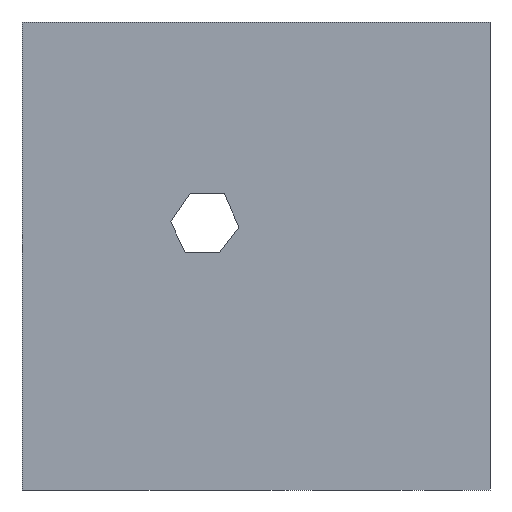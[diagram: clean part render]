
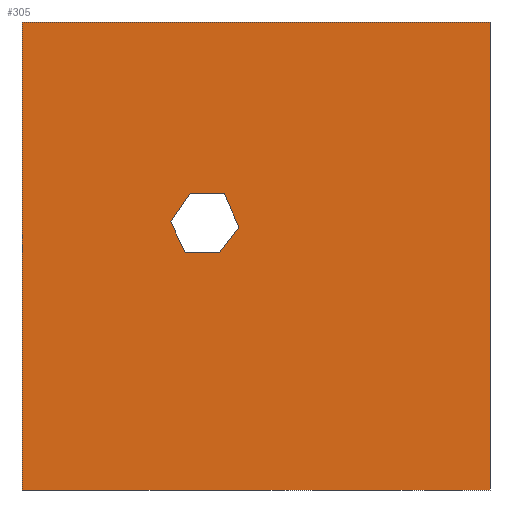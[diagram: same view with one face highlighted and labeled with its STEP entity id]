
A CAD part, left-side view. The second image highlights one B-rep face of the part: STEP entity #305.
In plain terms, the highlighted planar face has unit normal (-1, 0, 0).
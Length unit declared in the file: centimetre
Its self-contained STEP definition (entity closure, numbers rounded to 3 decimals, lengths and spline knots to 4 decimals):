
#2 = ORIENTED_EDGE ( 'NONE', *, *, #195, .T. ) ;
#11 = VECTOR ( 'NONE', #272, 100. ) ;
#35 = CARTESIAN_POINT ( 'NONE',  ( 0., 0., 1000. ) ) ;
#48 = DIRECTION ( 'NONE',  ( 0., 0., -1. ) ) ;
#70 = VECTOR ( 'NONE', #48, 100. ) ;
#76 = CARTESIAN_POINT ( 'NONE',  ( 0., 651.2079, 507.2544 ) ) ;
#82 = DIRECTION ( 'NONE',  ( 0., -0.396, -0.918 ) ) ;
#139 = VECTOR ( 'NONE', #1546, 100. ) ;
#161 = VERTEX_POINT ( 'NONE', #268 ) ;
#163 = DIRECTION ( 'NONE',  ( 0., 0., -1. ) ) ;
#164 = VERTEX_POINT ( 'NONE', #1219 ) ;
#169 = EDGE_CURVE ( 'NONE', #1566, #1106, #1355, .T. ) ;
#171 = VECTOR ( 'NONE', #1008, 100. ) ;
#179 = CARTESIAN_POINT ( 'NONE',  ( 0., 536.5707, 561.2604 ) ) ;
#195 = EDGE_CURVE ( 'NONE', #632, #723, #726, .T. ) ;
#196 = CARTESIAN_POINT ( 'NONE',  ( 0., 1000., 0. ) ) ;
#256 = EDGE_CURVE ( 'NONE', #161, #1450, #1276, .T. ) ;
#268 = CARTESIAN_POINT ( 'NONE',  ( 0., 682.3883, 573.4402 ) ) ;
#272 = DIRECTION ( 'NONE',  ( 0., -1., 0. ) ) ;
#290 = VERTEX_POINT ( 'NONE', #1147 ) ;
#305 = ADVANCED_FACE ( 'NONE', ( #413, #761 ), #1501, .F. ) ;
#355 = CARTESIAN_POINT ( 'NONE',  ( 0., 0., 0. ) ) ;
#362 = ORIENTED_EDGE ( 'NONE', *, *, #169, .T. ) ;
#387 = VECTOR ( 'NONE', #163, 100. ) ;
#393 = CARTESIAN_POINT ( 'NONE',  ( 0., 640.6599, 633.5361 ) ) ;
#405 = DIRECTION ( 'NONE',  ( 1., 0., 0. ) ) ;
#413 = FACE_BOUND ( 'NONE', #1211, .T. ) ;
#437 = ORIENTED_EDGE ( 'NONE', *, *, #1148, .T. ) ;
#499 = DIRECTION ( 'NONE',  ( 0., 1., 0. ) ) ;
#507 = CARTESIAN_POINT ( 'NONE',  ( 0., 1000., 0. ) ) ;
#519 = LINE ( 'NONE', #622, #171 ) ;
#543 = VECTOR ( 'NONE', #1468, 100. ) ;
#557 = ORIENTED_EDGE ( 'NONE', *, *, #1567, .T. ) ;
#571 = CARTESIAN_POINT ( 'NONE',  ( 0., 640.6599, 633.5361 ) ) ;
#622 = CARTESIAN_POINT ( 'NONE',  ( 0., 651.2079, 507.2544 ) ) ;
#632 = VERTEX_POINT ( 'NONE', #1324 ) ;
#635 = LINE ( 'NONE', #867, #11 ) ;
#667 = CARTESIAN_POINT ( 'NONE',  ( 0., 1000., 1000. ) ) ;
#713 = LINE ( 'NONE', #571, #139 ) ;
#716 = CARTESIAN_POINT ( 'NONE',  ( 0., 578.2991, 507.2544 ) ) ;
#723 = VERTEX_POINT ( 'NONE', #196 ) ;
#726 = LINE ( 'NONE', #974, #70 ) ;
#731 = VECTOR ( 'NONE', #1037, 100. ) ;
#761 = FACE_OUTER_BOUND ( 'NONE', #1090, .T. ) ;
#791 = LINE ( 'NONE', #179, #731 ) ;
#838 = ORIENTED_EDGE ( 'NONE', *, *, #1457, .F. ) ;
#849 = ORIENTED_EDGE ( 'NONE', *, *, #1445, .F. ) ;
#853 = ORIENTED_EDGE ( 'NONE', *, *, #1149, .T. ) ;
#867 = CARTESIAN_POINT ( 'NONE',  ( 0., 1000., 1000. ) ) ;
#875 = CARTESIAN_POINT ( 'NONE',  ( 0., 567.7511, 633.5361 ) ) ;
#887 = CARTESIAN_POINT ( 'NONE',  ( 0., 682.3883, 573.4402 ) ) ;
#890 = VECTOR ( 'NONE', #1281, 100. ) ;
#917 = VECTOR ( 'NONE', #499, 100. ) ;
#974 = CARTESIAN_POINT ( 'NONE',  ( 0., 1000., 1000. ) ) ;
#1008 = DIRECTION ( 'NONE',  ( 0., 0.426, 0.905 ) ) ;
#1030 = ORIENTED_EDGE ( 'NONE', *, *, #1519, .T. ) ;
#1037 = DIRECTION ( 'NONE',  ( 0., 0.611, -0.791 ) ) ;
#1043 = AXIS2_PLACEMENT_3D ( 'NONE', #667, #405, #1258 ) ;
#1090 = EDGE_LOOP ( 'NONE', ( #557, #849, #838, #2 ) ) ;
#1106 = VERTEX_POINT ( 'NONE', #76 ) ;
#1137 = LINE ( 'NONE', #1416, #1195 ) ;
#1147 = CARTESIAN_POINT ( 'NONE',  ( 0., 0., 1000. ) ) ;
#1148 = EDGE_CURVE ( 'NONE', #1431, #164, #1137, .T. ) ;
#1149 = EDGE_CURVE ( 'NONE', #164, #1566, #791, .T. ) ;
#1195 = VECTOR ( 'NONE', #82, 100. ) ;
#1211 = EDGE_LOOP ( 'NONE', ( #853, #362, #1030, #1278, #1216, #437 ) ) ;
#1216 = ORIENTED_EDGE ( 'NONE', *, *, #1336, .T. ) ;
#1219 = CARTESIAN_POINT ( 'NONE',  ( 0., 536.5707, 561.2604 ) ) ;
#1226 = LINE ( 'NONE', #35, #387 ) ;
#1241 = LINE ( 'NONE', #507, #543 ) ;
#1258 = DIRECTION ( 'NONE',  ( 0., 0., -1. ) ) ;
#1276 = LINE ( 'NONE', #887, #890 ) ;
#1278 = ORIENTED_EDGE ( 'NONE', *, *, #256, .T. ) ;
#1281 = DIRECTION ( 'NONE',  ( 0., -0.57, 0.821 ) ) ;
#1320 = VERTEX_POINT ( 'NONE', #355 ) ;
#1324 = CARTESIAN_POINT ( 'NONE',  ( 0., 1000., 1000. ) ) ;
#1336 = EDGE_CURVE ( 'NONE', #1450, #1431, #713, .T. ) ;
#1355 = LINE ( 'NONE', #716, #917 ) ;
#1416 = CARTESIAN_POINT ( 'NONE',  ( 0., 567.7511, 633.5361 ) ) ;
#1431 = VERTEX_POINT ( 'NONE', #875 ) ;
#1445 = EDGE_CURVE ( 'NONE', #290, #1320, #1226, .T. ) ;
#1450 = VERTEX_POINT ( 'NONE', #393 ) ;
#1457 = EDGE_CURVE ( 'NONE', #632, #290, #635, .T. ) ;
#1468 = DIRECTION ( 'NONE',  ( 0., -1., 0. ) ) ;
#1488 = CARTESIAN_POINT ( 'NONE',  ( 0., 578.2991, 507.2544 ) ) ;
#1501 = PLANE ( 'NONE',  #1043 ) ;
#1519 = EDGE_CURVE ( 'NONE', #1106, #161, #519, .T. ) ;
#1546 = DIRECTION ( 'NONE',  ( 0., -1., 0. ) ) ;
#1566 = VERTEX_POINT ( 'NONE', #1488 ) ;
#1567 = EDGE_CURVE ( 'NONE', #723, #1320, #1241, .T. ) ;
